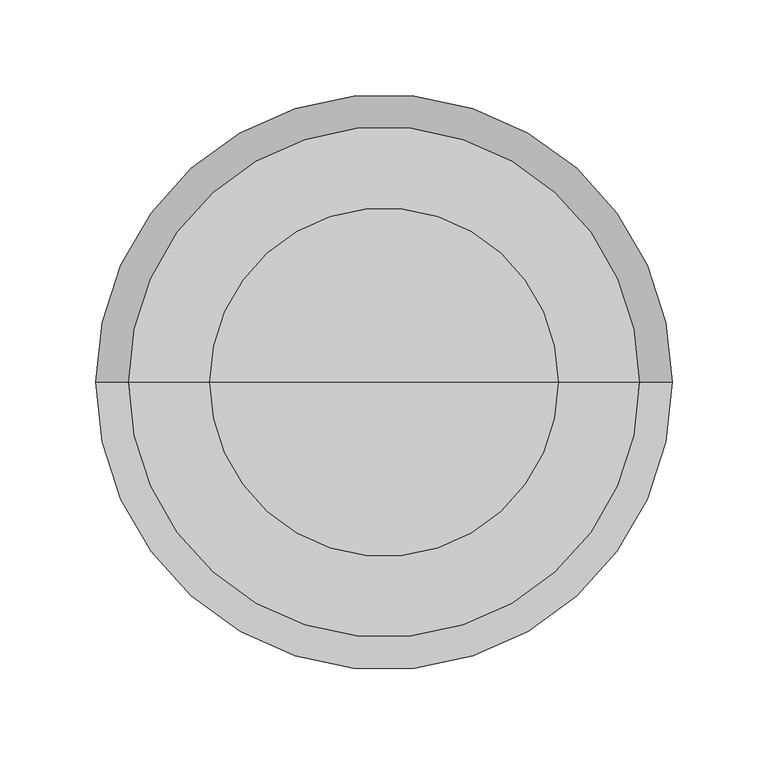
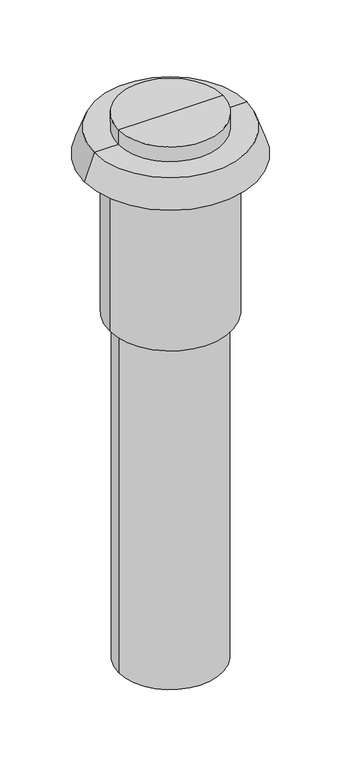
"""IFC4 building model written with IfcOpenShell, lengths in millimetres: air terminal geometry, NLRS_57_AIR_WPB_roof ventilation terminals_M&G : EPS Black, ø180 - L=1000mm."""

from ifc_helpers import new_model, si_unit, frame, origin, place, context, project, spatial, polyline, circle_curve, source, transform, mapped, element, save
from ifc_brep_helpers import plane_surface, cylinder_surface, revolved_surface, advanced_brep


def air_terminal_abea36ea(model_context):
    return source(origin(), model_context, "Body", "AdvancedBrep", [
        advanced_brep(
        [(90.7, 0.0, 365.0), (-90.7, 0.0, 365.0), (0.0, 0.0, 365.0), (90.7, 0.0, 338.0), (-90.7, 0.0, 338.0), (0.0, 0.0, 338.0)],
        [
            (0, 1, circle_curve(frame((0.0, 0.0, 365.0), z_axis=(0.0, 0.0, 1.0), x_axis=(-1.0, 0.0, 0.0)), 90.7)),
            (1, 2),
            (2, 0),
            (1, 0, circle_curve(frame((0.0, 0.0, 365.0), z_axis=(0.0, 0.0, 1.0), x_axis=(-1.0, 0.0, 0.0)), 90.7)),
            (3, 4, circle_curve(frame((0.0, 0.0, 338.0), z_axis=(0.0, 0.0, 1.0), x_axis=(-1.0, 0.0, 0.0)), 90.7)),
            (4, 1),
            (0, 3),
            (4, 3, circle_curve(frame((0.0, 0.0, 338.0), z_axis=(0.0, 0.0, 1.0), x_axis=(-1.0, 0.0, 0.0)), 90.7)),
            (5, 4),
            (3, 5),
        ],
        [
            plane_surface(frame((0.0, 0.0, 365.0), z_axis=(0.0, 0.0, 1.0), x_axis=(-1.0, 0.0, 0.0))),
            cylinder_surface(frame((0.0, 0.0, 2068.3150031), z_axis=(0.0, 0.0, -1.0), x_axis=(-1.0, 0.0, 0.0)), 90.7),
            plane_surface(frame((0.0, 0.0, 338.0), z_axis=(0.0, 0.0, -1.0), x_axis=(-1.0, 0.0, 0.0))),
        ],
        [
            (0, [[1, 2, 3]]),
            (0, [[4, -3, -2]]),
            (1, [[5, 6, -1, 7]]),
            (1, [[8, -7, -4, -6]]),
            (2, [[9, -5, 10]]),
            (2, [[-10, -8, -9]]),
        ],
    ),
        advanced_brep(
        [(106.0, 0.0, 290.0), (-106.0, 0.0, 290.0), (0.0, 0.0, 290.0), (106.0, 0.0, 0.0), (-106.0, 0.0, 0.0), (0.0, 0.0, 0.0)],
        [
            (0, 1, circle_curve(frame((0.0, 0.0, 290.0), z_axis=(0.0, 0.0, 1.0), x_axis=(-1.0, 0.0, 0.0)), 106.0)),
            (1, 2),
            (2, 0),
            (1, 0, circle_curve(frame((0.0, 0.0, 290.0), z_axis=(0.0, 0.0, 1.0), x_axis=(-1.0, 0.0, 0.0)), 106.0)),
            (3, 4, circle_curve(frame((0.0, 0.0, 0.0), z_axis=(0.0, 0.0, 1.0), x_axis=(-1.0, 0.0, 0.0)), 106.0)),
            (4, 1),
            (0, 3),
            (4, 3, circle_curve(frame((0.0, 0.0, 0.0), z_axis=(0.0, 0.0, 1.0), x_axis=(-1.0, 0.0, 0.0)), 106.0)),
            (5, 4),
            (3, 5),
        ],
        [
            plane_surface(frame((0.0, 0.0, 290.0), z_axis=(0.0, 0.0, 1.0), x_axis=(-1.0, 0.0, 0.0))),
            cylinder_surface(frame((0.0, 0.0, 2112.3150031), z_axis=(0.0, 0.0, -1.0), x_axis=(-1.0, 0.0, 0.0)), 106.0),
            plane_surface(frame((0.0, 0.0, 0.0), z_axis=(0.0, 0.0, -1.0), x_axis=(-1.0, 0.0, 0.0))),
        ],
        [
            (0, [[1, 2, 3]]),
            (0, [[4, -3, -2]]),
            (1, [[5, 6, -1, 7]]),
            (1, [[8, -7, -4, -6]]),
            (2, [[9, -5, 10]]),
            (2, [[-10, -8, -9]]),
        ],
    ),
        advanced_brep(
        [(133.0, 0.0, 338.0), (-133.0, 0.0, 338.0), (0.0, 0.0, 338.0), (150.0, 0.0, 290.0), (-150.0, 0.0, 290.0), (0.0, 0.0, 290.0)],
        [
            (0, 1, circle_curve(frame((0.0, 0.0, 338.0), z_axis=(0.0, 0.0, 1.0), x_axis=(-1.0, 0.0, 0.0)), 133.0)),
            (1, 2),
            (2, 0),
            (1, 0, circle_curve(frame((0.0, 0.0, 338.0), z_axis=(0.0, 0.0, 1.0), x_axis=(-1.0, 0.0, 0.0)), 133.0)),
            (3, 4, circle_curve(frame((0.0, 0.0, 290.0), z_axis=(0.0, 0.0, 1.0), x_axis=(-1.0, 0.0, 0.0)), 150.0)),
            (4, 1),
            (0, 3),
            (4, 3, circle_curve(frame((0.0, 0.0, 290.0), z_axis=(0.0, 0.0, 1.0), x_axis=(-1.0, 0.0, 0.0)), 150.0)),
            (5, 4),
            (3, 5),
        ],
        [
            plane_surface(frame((0.0, 0.0, 338.0), z_axis=(0.0, 0.0, 1.0), x_axis=(-1.0, 0.0, 0.0))),
            revolved_surface(polyline([(-133.0, 0.0, 338.0), (-150.0, 0.0, 290.0)]), (0.0, 0.0, 2058.3150031), (0.0, 0.0, -1.0)),
            plane_surface(frame((0.0, 0.0, 290.0), z_axis=(0.0, 0.0, -1.0), x_axis=(-1.0, 0.0, 0.0))),
        ],
        [
            (0, [[1, 2, 3]]),
            (0, [[4, -3, -2]]),
            (1, [[5, 6, -1, 7]]),
            (1, [[8, -7, -4, -6]]),
            (2, [[9, -5, 10]]),
            (2, [[-10, -8, -9]]),
        ],
    ),
        advanced_brep(
        [(90.0, 0.0, -635.0), (-90.0, 0.0, -635.0), (-90.0, 0.0, 0.0), (90.0, 0.0, 0.0), (0.0, 0.0, -635.0), (0.0, 0.0, 0.0)],
        [
            (0, 1, circle_curve(frame((0.0, 0.0, -635.0), z_axis=(0.0, 0.0, 1.0), x_axis=(-1.0, 0.0, 0.0)), 90.0)),
            (1, 2),
            (2, 3, circle_curve(frame((0.0, 0.0, 0.0), z_axis=(0.0, 0.0, -1.0), x_axis=(-1.0, 0.0, 0.0)), 90.0)),
            (3, 0),
            (1, 0, circle_curve(frame((0.0, 0.0, -635.0), z_axis=(0.0, 0.0, 1.0), x_axis=(-1.0, 0.0, 0.0)), 90.0)),
            (3, 2, circle_curve(frame((0.0, 0.0, 0.0), z_axis=(0.0, 0.0, -1.0), x_axis=(-1.0, 0.0, 0.0)), 90.0)),
            (4, 1),
            (0, 4),
            (2, 5),
            (5, 3),
        ],
        [
            cylinder_surface(frame((0.0, 0.0, 2058.3150031), z_axis=(0.0, 0.0, -1.0), x_axis=(-1.0, 0.0, 0.0)), 90.0),
            plane_surface(frame((0.0, 0.0, -635.0), z_axis=(0.0, 0.0, -1.0), x_axis=(-1.0, 0.0, 0.0))),
            plane_surface(frame((0.0, 0.0, 0.0), z_axis=(0.0, 0.0, 1.0), x_axis=(-1.0, 0.0, 0.0))),
        ],
        [
            (0, [[1, 2, 3, 4]]),
            (0, [[5, -4, 6, -2]]),
            (1, [[7, -1, 8]]),
            (1, [[-8, -5, -7]]),
            (2, [[-3, 9, 10]]),
            (2, [[-6, -10, -9]]),
        ],
    ),
    ])


if __name__ == "__main__":
    model = new_model("IFC4")
    model_context = context("Model", 3, world=origin())
    ifc_project = project(units=[si_unit("LENGTHUNIT", "METRE", prefix="MILLI")], contexts=[model_context])
    site = spatial("IfcSite", under=ifc_project)
    building = spatial("IfcBuilding", under=site)
    placement = place(None, origin())
    air_terminal_shape = air_terminal_abea36ea(model_context)
    element("IfcAirTerminal", 1, ObjectType="NLRS_57_AIR_WPB_roof ventilation terminals_M&G : EPS Black, ø180 - L=1000mm", at=placement, inside=building, context=model_context, shape_type="MappedRepresentation", body=[
        mapped(air_terminal_shape, transform((0.0, 0.0, 0.0), x_axis=(1.0, 0.0, 0.0), y_axis=(0.0, 1.0, 0.0), z_axis=(0.0, 0.0, 1.0))),
    ])
    save(model, "model.ifc")
